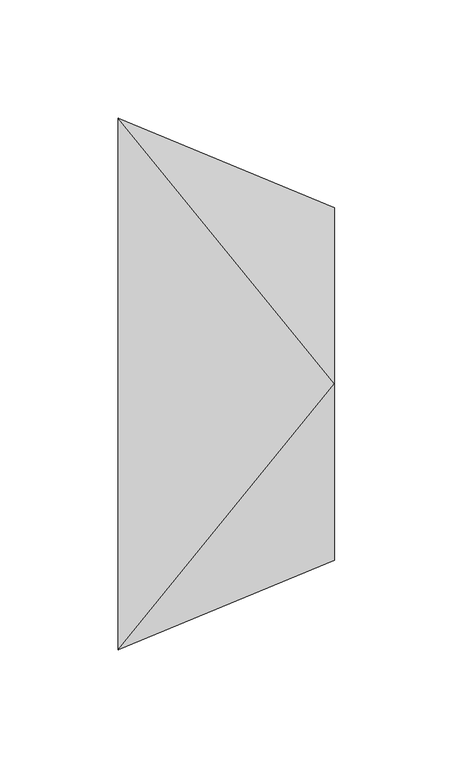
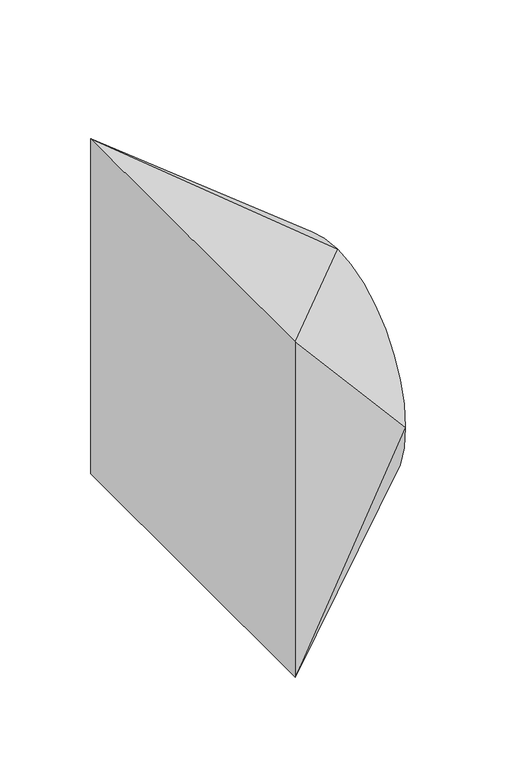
"""IFC4 building model written with IfcOpenShell, lengths in millimetres: duct fitting geometry, M_Transição retangular para oval - Ângulo : 45 Graus."""

from ifc_helpers import new_model, si_unit, frame, origin, place, context, project, spatial, circle_curve, source, transform, mapped, element, save
from ifc_brep_helpers import plane_surface, spline_surface, advanced_brep


def duct_fitting_834ffa43(model_context):
    return source(origin(), model_context, "Body", "AdvancedBrep", [
        advanced_brep(
        [(91.7401154, 0.0, 74.5), (91.7401154, -74.5, 0.0), (91.7401154, 0.0, -74.5), (91.7401154, 74.5, 0.0), (0.0, -112.5, 112.5), (0.0, 112.5, 112.5), (0.0, 112.5, -112.5), (0.0, -112.5, -112.5)],
        [
            (0, 1, circle_curve(frame((91.7401154, 0.0, 0.0), z_axis=(1.0, 0.0, 0.0), x_axis=(0.0, 1.0, 0.0)), 74.5)),
            (1, 2, circle_curve(frame((91.7401154, 0.0, 0.0), z_axis=(1.0, 0.0, 0.0), x_axis=(0.0, 1.0, 0.0)), 74.5)),
            (2, 3, circle_curve(frame((91.7401154, 0.0, 0.0), z_axis=(1.0, 0.0, 0.0), x_axis=(0.0, 1.0, 0.0)), 74.5)),
            (3, 0, circle_curve(frame((91.7401154, 0.0, 0.0), z_axis=(1.0, 0.0, 0.0), x_axis=(0.0, 1.0, 0.0)), 74.5)),
            (4, 5),
            (5, 6),
            (6, 7),
            (7, 4),
            (0, 4),
            (4, 1),
            (7, 1),
            (7, 2),
            (6, 2),
            (6, 3),
            (5, 3),
            (5, 0),
        ],
        [
            plane_surface(frame((91.7401154, 0.0, 0.0), z_axis=(1.0, 0.0, 0.0), x_axis=(0.0, 0.0, -1.0))),
            plane_surface(frame((0.0, 0.0, 0.0), z_axis=(-1.0, 0.0, 0.0), x_axis=(0.0, 0.0, -1.0))),
            spline_surface(2, 1, [[(0.0, -112.5, 112.5), (91.7401154, 0.0, 74.5)], [(0.0, -112.5, 112.5), (91.7401154, -74.5, 74.5)], [(0.0, -112.5, 112.5), (91.7401154, -74.5, 0.0)]], [3, 3], [2, 2], [0.0, 1.0], [0.0, 1.0], weights=[[1.0, 1.0], [0.7071067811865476, 0.7071067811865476], [1.0, 1.0]]),
            plane_surface(frame((0.0, -112.5, 0.0), z_axis=(0.3826834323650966, -0.923879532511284, 0.0), x_axis=(0.0, 0.0, -1.0))),
            spline_surface(2, 1, [[(0.0, -112.5, -112.5), (91.7401154, -74.5, 0.0)], [(0.0, -112.5, -112.5), (91.7401154, -74.5, -74.5)], [(0.0, -112.5, -112.5), (91.7401154, 0.0, -74.5)]], [3, 3], [2, 2], [0.0, 1.0], [0.0, 1.0], weights=[[1.0, 1.0], [0.7071067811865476, 0.7071067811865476], [1.0, 1.0]]),
            plane_surface(frame((0.0, 0.0, -112.5), z_axis=(0.38268343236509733, 0.0, -0.9238795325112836), x_axis=(0.0, 1.0, 0.0))),
            spline_surface(2, 1, [[(0.0, 112.5, -112.5), (91.7401154, 0.0, -74.5)], [(0.0, 112.5, -112.5), (91.7401154, 74.5, -74.5)], [(0.0, 112.5, -112.5), (91.7401154, 74.5, 0.0)]], [3, 3], [2, 2], [0.0, 1.0], [0.0, 1.0], weights=[[1.0, 1.0], [0.7071067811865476, 0.7071067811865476], [1.0, 1.0]]),
            plane_surface(frame((0.0, 112.5, 0.0), z_axis=(0.3826834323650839, 0.9238795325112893, 0.0), x_axis=(0.0, 0.0, 1.0))),
            spline_surface(2, 1, [[(0.0, 112.5, 112.5), (91.7401154, 74.5, 0.0)], [(0.0, 112.5, 112.5), (91.7401154, 74.5, 74.5)], [(0.0, 112.5, 112.5), (91.7401154, 0.0, 74.5)]], [3, 3], [2, 2], [0.0, 1.0], [0.0, 1.0], weights=[[1.0, 1.0], [0.7071067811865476, 0.7071067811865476], [1.0, 1.0]]),
            plane_surface(frame((0.0, 0.0, 112.5), z_axis=(0.38268343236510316, 0.0, 0.9238795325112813), x_axis=(0.0, -1.0, 0.0))),
        ],
        [
            (0, [[1, 2, 3, 4]]),
            (1, [[5, 6, 7, 8]]),
            (2, [[-1, 9, 10]]),
            (3, [[-8, 11, -10]]),
            (4, [[-2, -11, 12]]),
            (5, [[-7, 13, -12]]),
            (6, [[-3, -13, 14]]),
            (7, [[-6, 15, -14]]),
            (8, [[-4, -15, 16]]),
            (9, [[-5, -9, -16]]),
        ],
    ),
    ])


if __name__ == "__main__":
    model = new_model("IFC4")
    model_context = context("Model", 3, world=origin())
    ifc_project = project(units=[si_unit("LENGTHUNIT", "METRE", prefix="MILLI")], contexts=[model_context])
    site = spatial("IfcSite", under=ifc_project)
    building = spatial("IfcBuilding", under=site)
    placement = place(None, origin())
    duct_fitting_shape = duct_fitting_834ffa43(model_context)
    element("IfcDuctFitting", 1, ObjectType="M_Transição retangular para oval - Ângulo : 45 Graus", at=placement, inside=building, context=model_context, shape_type="MappedRepresentation", body=[
        mapped(duct_fitting_shape, transform((0.0, 0.0, 0.0), x_axis=(1.0, 0.0, 0.0), y_axis=(0.0, 1.0, 0.0), z_axis=(0.0, 0.0, 1.0))),
    ])
    save(model, "model.ifc")
